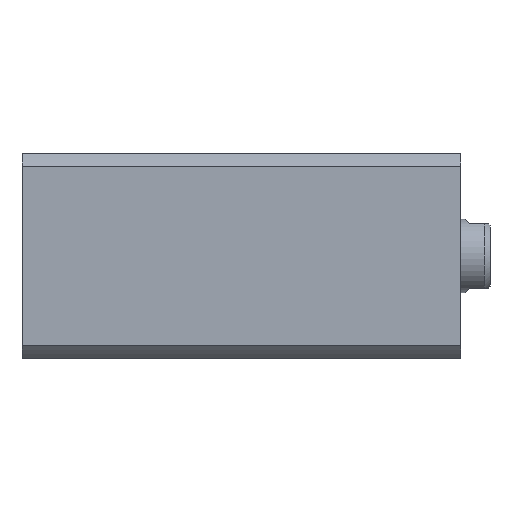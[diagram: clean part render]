
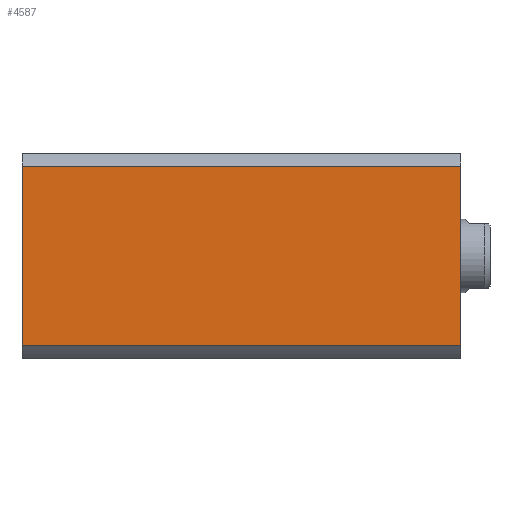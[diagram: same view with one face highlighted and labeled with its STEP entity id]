
A CAD part, left-side view. The second image highlights one B-rep face of the part: STEP entity #4587.
In plain terms, the highlighted planar face has unit normal (-1, 0, 0).
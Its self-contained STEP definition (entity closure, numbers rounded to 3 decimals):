
#228 = LINE ( 'NONE', #7882, #8121 ) ;
#319 = EDGE_CURVE ( 'NONE', #6485, #559, #228, .T. ) ;
#559 = VERTEX_POINT ( 'NONE', #1746 ) ;
#871 = VECTOR ( 'NONE', #7403, 1000. ) ;
#1565 = CARTESIAN_POINT ( 'NONE',  ( -35., 35., 150. ) ) ;
#1726 = ORIENTED_EDGE ( 'NONE', *, *, #319, .F. ) ;
#1730 = EDGE_CURVE ( 'NONE', #2874, #6485, #6110, .T. ) ;
#1746 = CARTESIAN_POINT ( 'NONE',  ( -35., -30.615, 150. ) ) ;
#1904 = CARTESIAN_POINT ( 'NONE',  ( -35., -30.615, 300. ) ) ;
#1954 = CARTESIAN_POINT ( 'NONE',  ( -35., 35., 0. ) ) ;
#1967 = CARTESIAN_POINT ( 'NONE',  ( -35., 30.615, 150. ) ) ;
#2466 = VECTOR ( 'NONE', #5114, 1000. ) ;
#2700 = LINE ( 'NONE', #1954, #2466 ) ;
#2874 = VERTEX_POINT ( 'NONE', #4018 ) ;
#3014 = EDGE_CURVE ( 'NONE', #559, #4786, #5054, .T. ) ;
#3331 = FACE_OUTER_BOUND ( 'NONE', #9296, .T. ) ;
#3993 = DIRECTION ( 'NONE',  ( 1., 0., 0. ) ) ;
#4018 = CARTESIAN_POINT ( 'NONE',  ( -35., 30.615, 0. ) ) ;
#4172 = EDGE_CURVE ( 'NONE', #2874, #4786, #2700, .T. ) ;
#4587 = ADVANCED_FACE ( 'NONE', ( #3331 ), #8703, .F. ) ;
#4786 = VERTEX_POINT ( 'NONE', #7829 ) ;
#5054 = LINE ( 'NONE', #1904, #871 ) ;
#5114 = DIRECTION ( 'NONE',  ( 0., -1., 0. ) ) ;
#6110 = LINE ( 'NONE', #6364, #8966 ) ;
#6221 = DIRECTION ( 'NONE',  ( 0., 0., 1. ) ) ;
#6364 = CARTESIAN_POINT ( 'NONE',  ( -35., 30.615, 300. ) ) ;
#6485 = VERTEX_POINT ( 'NONE', #1967 ) ;
#7403 = DIRECTION ( 'NONE',  ( 0., 0., -1. ) ) ;
#7531 = ORIENTED_EDGE ( 'NONE', *, *, #1730, .F. ) ;
#7829 = CARTESIAN_POINT ( 'NONE',  ( -35., -30.615, 0. ) ) ;
#7882 = CARTESIAN_POINT ( 'NONE',  ( -35., 35., 150. ) ) ;
#7892 = ORIENTED_EDGE ( 'NONE', *, *, #3014, .F. ) ;
#8121 = VECTOR ( 'NONE', #10103, 1000. ) ;
#8647 = ORIENTED_EDGE ( 'NONE', *, *, #4172, .T. ) ;
#8703 = PLANE ( 'NONE',  #9762 ) ;
#8966 = VECTOR ( 'NONE', #6221, 1000. ) ;
#9296 = EDGE_LOOP ( 'NONE', ( #7892, #1726, #7531, #8647 ) ) ;
#9500 = DIRECTION ( 'NONE',  ( 0., 1., 0. ) ) ;
#9762 = AXIS2_PLACEMENT_3D ( 'NONE', #1565, #3993, #9500 ) ;
#10103 = DIRECTION ( 'NONE',  ( 0., -1., 0. ) ) ;
